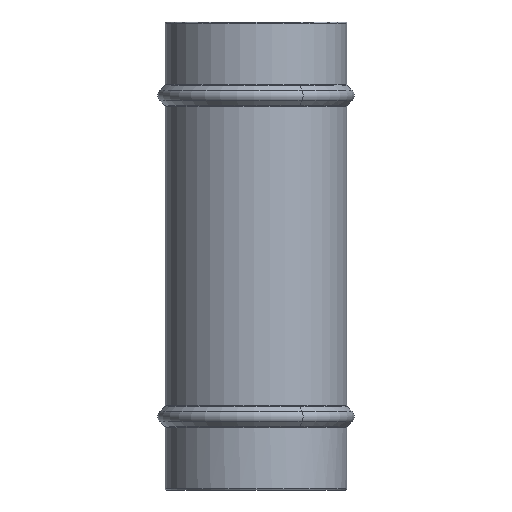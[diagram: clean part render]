
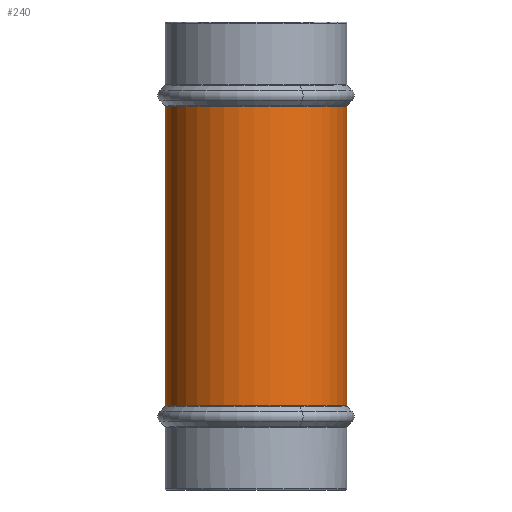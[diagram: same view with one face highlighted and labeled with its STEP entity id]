
A CAD part, front view. The second image highlights one B-rep face of the part: STEP entity #240.
In plain terms, the highlighted cylindrical face has radius 42.7 mm (diameter 85.4 mm), a partial arc.
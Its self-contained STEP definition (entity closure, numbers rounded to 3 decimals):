
#114=CYLINDRICAL_SURFACE('',#1064,42.7);
#166=LINE('',#2603,#196);
#167=LINE('',#2606,#197);
#168=LINE('',#2607,#198);
#169=LINE('',#2609,#199);
#196=VECTOR('',#1310,1.);
#197=VECTOR('',#1311,1.);
#198=VECTOR('',#1312,1.);
#199=VECTOR('',#1313,1.);
#240=ADVANCED_FACE('',(#321),#114,.T.);
#321=FACE_OUTER_BOUND('',#374,.T.);
#374=EDGE_LOOP('',(#537,#538,#539,#540,#541,#542,#543,#544));
#537=ORIENTED_EDGE('',*,*,#829,.F.);
#538=ORIENTED_EDGE('',*,*,#830,.T.);
#539=ORIENTED_EDGE('',*,*,#812,.T.);
#540=ORIENTED_EDGE('',*,*,#810,.T.);
#541=ORIENTED_EDGE('',*,*,#831,.F.);
#542=ORIENTED_EDGE('',*,*,#832,.T.);
#543=ORIENTED_EDGE('',*,*,#833,.F.);
#544=ORIENTED_EDGE('',*,*,#834,.F.);
#710=VERTEX_POINT('',#2564);
#711=VERTEX_POINT('',#2566);
#712=VERTEX_POINT('',#2570);
#722=VERTEX_POINT('',#2604);
#723=VERTEX_POINT('',#2605);
#724=VERTEX_POINT('',#2608);
#725=VERTEX_POINT('',#2610);
#726=VERTEX_POINT('',#2612);
#810=EDGE_CURVE('GENERATED CIRCLE',#711,#710,#925,.T.);
#812=EDGE_CURVE('GENERATED CIRCLE',#712,#711,#927,.T.);
#829=EDGE_CURVE('LINE',#722,#723,#166,.T.);
#830=EDGE_CURVE('LINE',#722,#712,#167,.T.);
#831=EDGE_CURVE('LINE',#724,#710,#168,.T.);
#832=EDGE_CURVE('LINE',#724,#725,#169,.T.);
#833=EDGE_CURVE('GENERATED CIRCLE',#726,#725,#940,.T.);
#834=EDGE_CURVE('GENERATED CIRCLE',#723,#726,#941,.T.);
#925=CIRCLE('',#1039,42.7);
#927=CIRCLE('',#1042,42.7);
#940=CIRCLE('',#1062,42.7);
#941=CIRCLE('',#1063,42.7);
#1039=AXIS2_PLACEMENT_3D('',#2565,#1260,#1261);
#1042=AXIS2_PLACEMENT_3D('',#2569,#1266,#1267);
#1062=AXIS2_PLACEMENT_3D('',#2611,#1314,#1315);
#1063=AXIS2_PLACEMENT_3D('',#2613,#1316,#1317);
#1064=AXIS2_PLACEMENT_3D('',#2614,#1318,#1319);
#1260=DIRECTION('',(0.,0.,1.));
#1261=DIRECTION('',(1.,0.,0.));
#1266=DIRECTION('',(0.,0.,1.));
#1267=DIRECTION('',(1.,0.,0.));
#1310=DIRECTION('',(0.,0.,1.));
#1311=DIRECTION('',(0.,0.,-1.));
#1312=DIRECTION('',(0.,0.,-1.));
#1313=DIRECTION('',(0.,0.,1.));
#1314=DIRECTION('',(0.,0.,1.));
#1315=DIRECTION('',(1.,0.,0.));
#1316=DIRECTION('',(0.,0.,1.));
#1317=DIRECTION('',(1.,0.,0.));
#1318=DIRECTION('',(0.,0.,1.));
#1319=DIRECTION('',(-1.,0.,0.));
#2564=CARTESIAN_POINT('',(42.7,0.,-70.343));
#2565=CARTESIAN_POINT('',(0.,0.,-70.343));
#2566=CARTESIAN_POINT('',(20.471,-37.473,-70.343));
#2569=CARTESIAN_POINT('',(0.,0.,-70.343));
#2570=CARTESIAN_POINT('',(-42.7,0.,-70.343));
#2603=CARTESIAN_POINT('',(-42.7,0.,55.));
#2604=CARTESIAN_POINT('',(-42.7,0.,0.));
#2605=CARTESIAN_POINT('',(-42.7,0.,70.343));
#2606=CARTESIAN_POINT('',(-42.7,0.,55.));
#2607=CARTESIAN_POINT('',(42.7,0.,55.));
#2608=CARTESIAN_POINT('',(42.7,0.,0.));
#2609=CARTESIAN_POINT('',(42.7,0.,55.));
#2610=CARTESIAN_POINT('',(42.7,0.,70.343));
#2611=CARTESIAN_POINT('',(0.,0.,70.343));
#2612=CARTESIAN_POINT('',(20.471,-37.473,70.343));
#2613=CARTESIAN_POINT('',(0.,0.,70.343));
#2614=CARTESIAN_POINT('',(0.,0.,55.));
